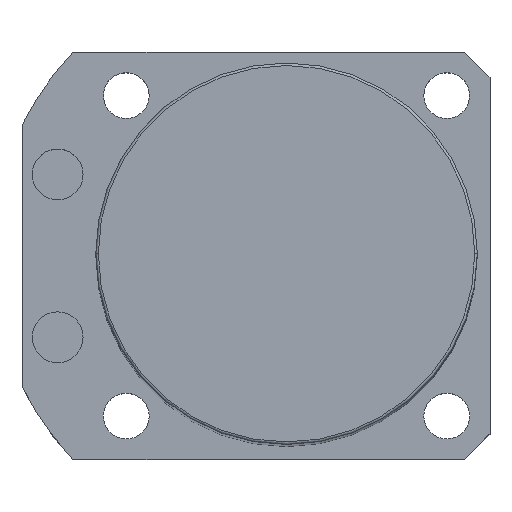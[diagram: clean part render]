
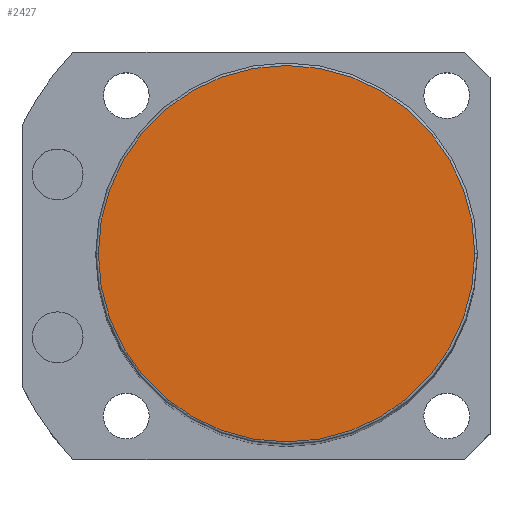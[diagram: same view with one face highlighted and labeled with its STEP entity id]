
A CAD part, top view. The second image highlights one B-rep face of the part: STEP entity #2427.
In plain terms, the highlighted planar face has unit normal (0, 0, 1).
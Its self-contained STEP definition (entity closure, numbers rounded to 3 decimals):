
#2 = CARTESIAN_POINT ( 'NONE',  ( 0., 0., 255.5 ) ) ;
#253 = PLANE ( 'NONE',  #495 ) ;
#474 = CARTESIAN_POINT ( 'NONE',  ( 0., 0., 255.5 ) ) ;
#495 = AXIS2_PLACEMENT_3D ( 'NONE', #474, #2288, #711 ) ;
#519 = CIRCLE ( 'NONE', #2131, 37. ) ;
#711 = DIRECTION ( 'NONE',  ( 1., 0., 0. ) ) ;
#765 = AXIS2_PLACEMENT_3D ( 'NONE', #2, #842, #1046 ) ;
#842 = DIRECTION ( 'NONE',  ( 0., 0., 1. ) ) ;
#876 = FACE_OUTER_BOUND ( 'NONE', #2605, .T. ) ;
#890 = ORIENTED_EDGE ( 'NONE', *, *, #1842, .T. ) ;
#1039 = DIRECTION ( 'NONE',  ( 0., 0., 1. ) ) ;
#1046 = DIRECTION ( 'NONE',  ( 1., 0., 0. ) ) ;
#1171 = ORIENTED_EDGE ( 'NONE', *, *, #1277, .T. ) ;
#1277 = EDGE_CURVE ( 'NONE', #2173, #1990, #519, .T. ) ;
#1652 = DIRECTION ( 'NONE',  ( 1., 0., 0. ) ) ;
#1719 = CARTESIAN_POINT ( 'NONE',  ( -37., 0., 255.5 ) ) ;
#1842 = EDGE_CURVE ( 'NONE', #1990, #2173, #2213, .T. ) ;
#1990 = VERTEX_POINT ( 'NONE', #1719 ) ;
#2131 = AXIS2_PLACEMENT_3D ( 'NONE', #2420, #1039, #1652 ) ;
#2173 = VERTEX_POINT ( 'NONE', #2178 ) ;
#2178 = CARTESIAN_POINT ( 'NONE',  ( 37., 0., 255.5 ) ) ;
#2213 = CIRCLE ( 'NONE', #765, 37. ) ;
#2288 = DIRECTION ( 'NONE',  ( 0., 0., 1. ) ) ;
#2420 = CARTESIAN_POINT ( 'NONE',  ( 0., 0., 255.5 ) ) ;
#2427 = ADVANCED_FACE ( 'NONE', ( #876 ), #253, .T. ) ;
#2605 = EDGE_LOOP ( 'NONE', ( #1171, #890 ) ) ;
